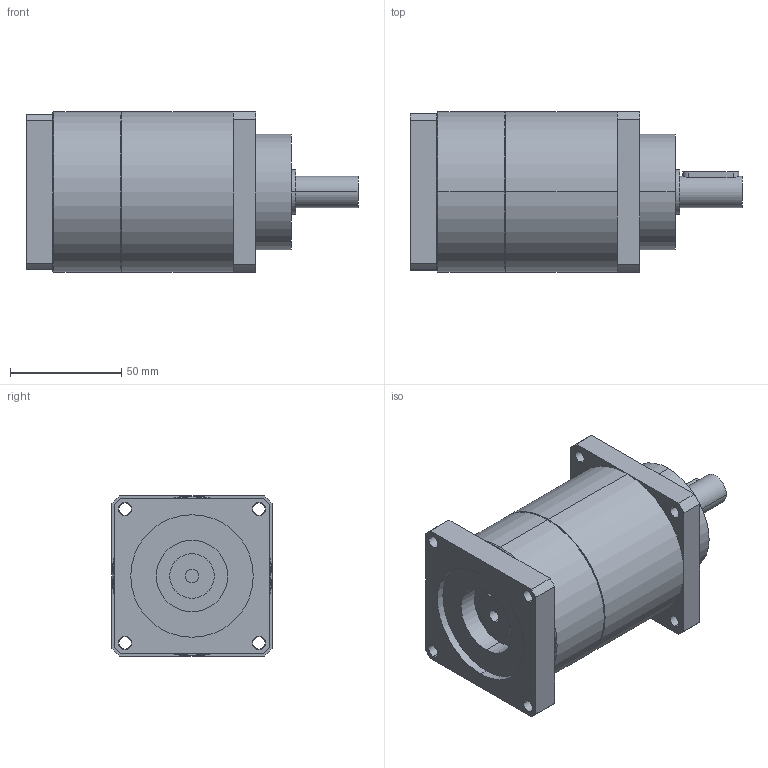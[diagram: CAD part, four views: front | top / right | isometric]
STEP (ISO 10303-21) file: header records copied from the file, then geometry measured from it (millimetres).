
FILE_DESCRIPTION(('CoCreate Modeling STEP Export'),'2;1');
FILE_NAME('GPT75_ig-9-12-16-20-25-28-35-40-50-70-100_14_B5T_6_P25.stp','2014-08-27T13:40:21',(''),(''),'CoCreate Modeling STEP processor for AP214 (Solid Model)','CoCreate Modeling 16.00C 25-Feb-2009 (C) Parametric Technology GmbH','');
FILE_SCHEMA(('AUTOMOTIVE_DESIGN { 1 0 10303 214 1 1 1 1 }'));
Length unit declared in the file: millimetre
Products named in the file (2): GPT75_ig-9-12-16-20-25-28-35-40-50-70-100_14_B5T_6_P25
Assembly tree (1 placements, depth 2):
  GPT75_ig-9-12-16-20-25-28-35-40-50-70-100_14_B5T_6_P25
    GPT75_ig-9-12-16-20-25-28-35-40-50-70-100_14_B5T_6_P25
Bounding box: 149 x 72 x 72 mm (x, y, z)
Volume: 461708.4 mm3; surface area: 44428.9 mm2
Topology: 1 solids, 1 shells, 84 faces, 210 edges, 137 vertices
Faces by surface type: cylinder 46, plane 34, cone 4
Entity records: 2588 total; most frequent: CARTESIAN_POINT 732, ORIENTED_EDGE 420, DIRECTION 326, EDGE_CURVE 210, VERTEX_POINT 137, AXIS2_PLACEMENT_3D 119, EDGE_LOOP 109, VECTOR 88
